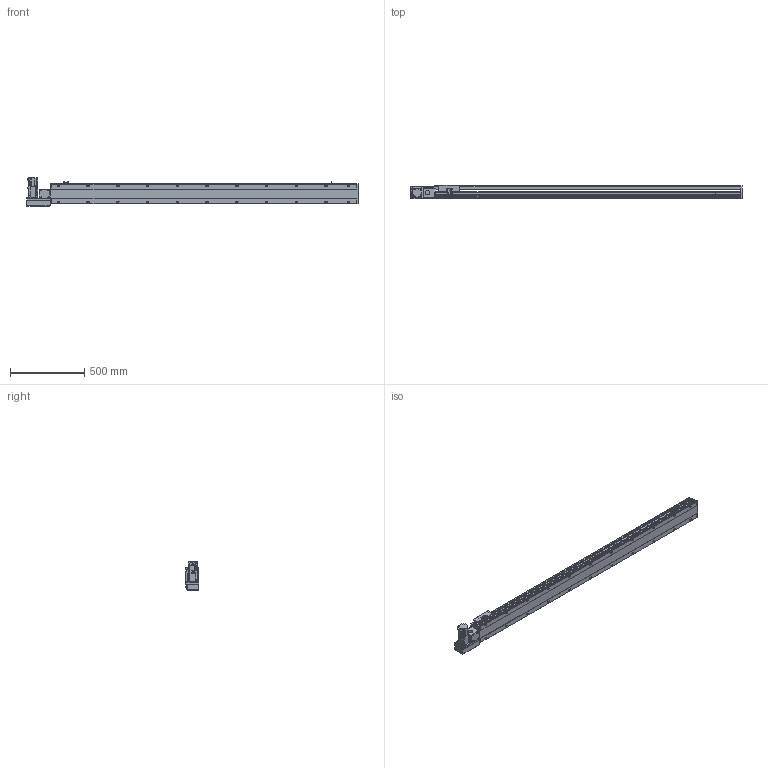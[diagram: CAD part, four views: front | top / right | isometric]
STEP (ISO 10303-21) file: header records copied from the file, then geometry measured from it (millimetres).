
FILE_DESCRIPTION( ( 'STEP AP214' ), '1' );
FILE_NAME( 'x:/temp/worker_6/temp/exporttempdir_5396_22_3eTi4/format_0/PBS140S-P40-S1800-L-T40-C1-N(0).stp', '2022-06-09T00:02:45', ( 'License CC BY-ND 4.0' ), ( 'CADENAS' ), ' ', 'PARTsolutions', ' ' );
FILE_SCHEMA( ( 'AUTOMOTIVE_DESIGN { 1 0 10303 214 1 1 1 1 }' ) );
Length unit declared in the file: millimetre
Products named in the file (7): PBS140S-P40-S1800-L-T40-C1-N(0); _PBS140S-S1800()_body; _PBS140ST-L_motors; _T40-p1; _PBS140S_sliser; _PBS140S_plant; _PBS140S_sensor
Assembly tree (8 placements, depth 2):
  PBS140S-P40-S1800-L-T40-C1-N(0)
    _PBS140S-S1800()_body
    _PBS140ST-L_motors
    _T40-p1
    _PBS140S_sliser
    _PBS140S_plant
    _PBS140S_sensor  x3
Bounding box: 2233 x 93 x 189.7 mm (x, y, z)
Volume: 10682841 mm3; surface area: 1815061.5 mm2
Topology: 8 solids, 8 shells, 1147 faces, 3031 edges, 1983 vertices
Faces by surface type: plane 720, cylinder 369, cone 48, sphere 8, torus 2
Full cylindrical faces by diameter (mm): 3.242 x4, 4 x2, 4.134 x4, 4.4 x8, 4.5 x2, 4.8 x4, 4.917 x30, 5.5 x7, 6 x2, 7 x24, 7.5 x8, 8 x12, 8.5 x4, 10.5 x22, 14 x1, 30 x2, 50 x2
Entity records: 42262 total; most frequent: CARTESIAN_POINT 6910, DIRECTION 5558, ORIENTED_EDGE 5242, EDGE_CURVE 2621, AXIS2_PLACEMENT_3D 1949, VERTEX_POINT 1825, LINE 1660, VECTOR 1660
